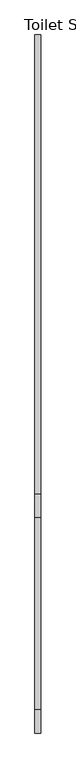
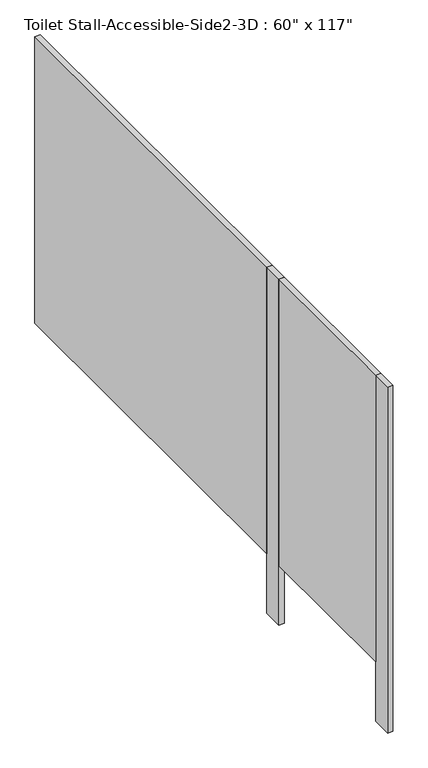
"""IFC4 building model written with IfcOpenShell, lengths in millimetres: proxy geometry."""

from ifc_helpers import new_model, si_unit, frame, origin, origin_with_axes, place, context, project, spatial, polyline, outline, extrude, source, transform, mapped, element, save


def proxy_d61e7b09(model_context):
    return source(origin(), model_context, "Body", "SweptSolid", [
        extrude(outline(polyline([(-661.8968462, -2997.2), (-687.2968462, -2997.2), (-687.2968462, -2184.4), (-661.8968462, -2184.4), (-661.8968462, -2997.2)])), frame((0.0, 0.0, 304.8), z_axis=(0.0, 0.0, 1.0), x_axis=(1.0, 0.0, 0.0)), (0.0, 0.0, 1.0), 1473.2),
        extrude(outline(polyline([(-661.8968462, -3098.8), (-687.2968462, -3098.8), (-687.2968462, -2997.2), (-661.8968462, -2997.2), (-661.8968462, -3098.8)])), origin_with_axes(), (0.0, 0.0, 1.0), 1778.0),
        extrude(outline(polyline([(-661.8968462, -2184.4), (-687.2968462, -2184.4), (-687.2968462, -2082.8), (-661.8968462, -2082.8), (-661.8968462, -2184.4)])), origin_with_axes(), (0.0, 0.0, 1.0), 1778.0),
        extrude(outline(polyline([(-687.2968462, -2082.8), (-687.2968462, -130.175), (-661.8968462, -130.175), (-661.8968462, -2082.8), (-687.2968462, -2082.8)])), frame((0.0, 0.0, 304.8), z_axis=(0.0, 0.0, 1.0), x_axis=(1.0, 0.0, 0.0)), (0.0, 0.0, 1.0), 1473.2),
    ])


if __name__ == "__main__":
    model = new_model("IFC4")
    model_context = context("Model", 3, world=origin())
    ifc_project = project(units=[si_unit("LENGTHUNIT", "METRE", prefix="MILLI")], contexts=[model_context])
    site = spatial("IfcSite", under=ifc_project)
    building = spatial("IfcBuilding", under=site)
    placement = place(None, origin())
    proxy_shape = proxy_d61e7b09(model_context)
    element("IfcBuildingElementProxy", 1, Name="Toilet Stall-Accessible-Side2-3D : 60\" x 117\"", ObjectType="Toilet Stall-Accessible-Side2-3D : 60\" x 117\"", at=placement, inside=building, context=model_context, shape_type="MappedRepresentation", body=[
        mapped(proxy_shape, transform((0.0, 0.0, 0.0), x_axis=(1.0, 0.0, 0.0), y_axis=(0.0, 1.0, 0.0), z_axis=(0.0, 0.0, 1.0))),
    ])
    save(model, "model.ifc")
